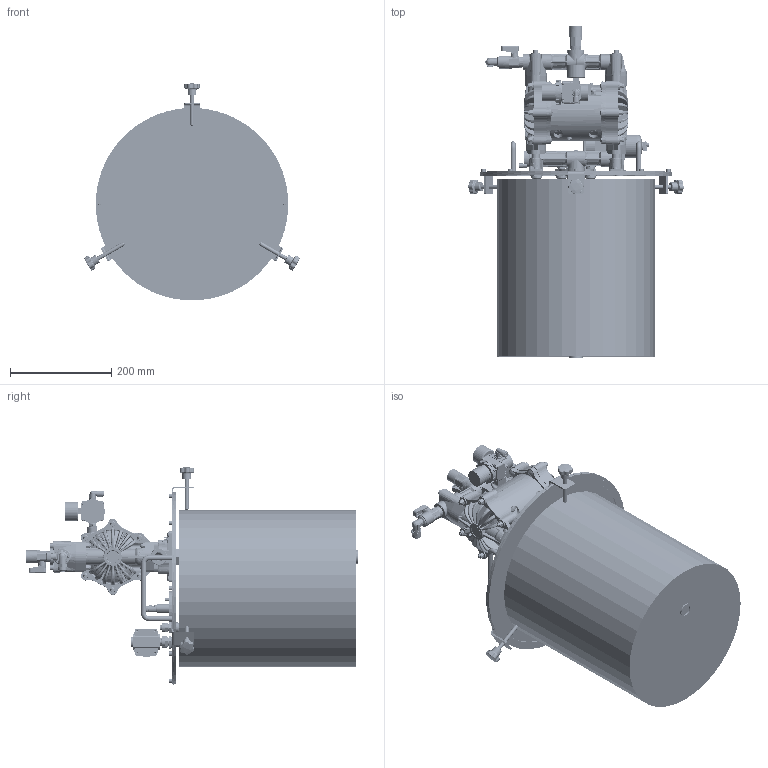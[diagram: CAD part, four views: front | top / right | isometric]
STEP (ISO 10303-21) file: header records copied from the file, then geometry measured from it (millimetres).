
FILE_DESCRIPTION (( 'STEP AP214' ), '1' );
FILE_NAME ('FEEDING-ZIP.STEP', '2024-10-14T10:20:05', ( '' ), ( '' ), 'SwSTEP 2.0', 'SolidWorks 2024', '' );
FILE_SCHEMA (( 'AUTOMOTIVE_DESIGN' ));
Length unit declared in the file: millimetre
Products named in the file (1): FEEDING-ZIP
Bounding box: 425.36 x 655.12 x 428.28 mm (x, y, z)
Volume: 5039172.8 mm3; surface area: 2007404.9 mm2
Topology: 170 solids, 194 shells, 9906 faces, 24967 edges, 15447 vertices
Faces by surface type: bspline 3524, plane 3129, cylinder 2134, cone 978, torus 137, sphere 4
Full cylindrical faces by diameter (mm): 1 x29, 2.5 x3, 2.56 x7, 2.6 x1, 2.94 x2, 3 x1, 3.242 x4, 3.8 x2, 4 x3, 4.134 x4, 4.2 x8, 4.917 x24, 5 x18, 5.1 x8, 5.5 x20, 5.8 x12, 6 x18, 6.15 x1, 6.3 x4, 6.4 x4, 6.5 x21, 6.6 x18, 6.8 x5, 7 x6, 7.3 x1, 8 x8, 8.5 x16, 8.566 x1, 8.6 x2, 9 x5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
Entity records: 485608 total; most frequent: CARTESIAN_POINT 289397, ORIENTED_EDGE 46568, DIRECTION 29592, EDGE_CURVE 23284, VERTEX_POINT 15008, EDGE_LOOP 11574, AXIS2_PLACEMENT_3D 11061, FACE_OUTER_BOUND 10519
